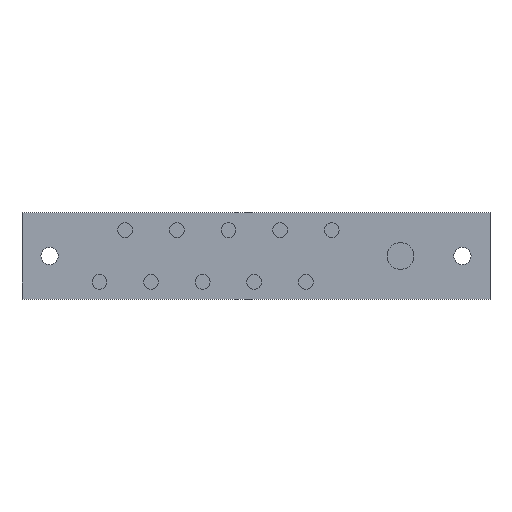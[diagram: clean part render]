
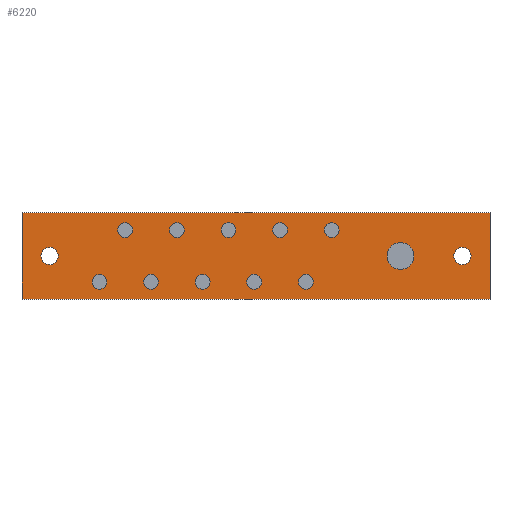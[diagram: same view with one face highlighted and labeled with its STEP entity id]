
A CAD part, top view. The second image highlights one B-rep face of the part: STEP entity #6220.
In plain terms, the highlighted planar face has unit normal (0, 0, 1).
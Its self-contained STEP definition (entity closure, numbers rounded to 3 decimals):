
#3290=CARTESIAN_POINT('',(249.512,66.46,3.));
#3300=VERTEX_POINT('',#3290);
#3330=CARTESIAN_POINT('',(113.512,66.46,3.));
#3340=DIRECTION('',(1.,0.,0.));
#3350=VECTOR('',#3340,1.);
#3360=LINE('',#3330,#3350);
#3370=CARTESIAN_POINT('',(113.512,66.46,3.));
#3380=VERTEX_POINT('',#3370);
#3390=EDGE_CURVE('',#3380,#3300,#3360,.T.);
#3600=CARTESIAN_POINT('',(249.512,41.46,3.));
#3610=VERTEX_POINT('',#3600);
#3640=CARTESIAN_POINT('',(249.512,66.46,3.));
#3650=DIRECTION('',(0.,-1.,0.));
#3660=VECTOR('',#3650,1.);
#3670=LINE('',#3640,#3660);
#3680=EDGE_CURVE('',#3300,#3610,#3670,.T.);
#3840=CARTESIAN_POINT('',(113.512,41.46,3.));
#3850=VERTEX_POINT('',#3840);
#3880=CARTESIAN_POINT('',(249.512,41.46,3.));
#3890=DIRECTION('',(-1.,0.,0.));
#3900=VECTOR('',#3890,1.);
#3910=LINE('',#3880,#3900);
#3920=EDGE_CURVE('',#3610,#3850,#3910,.T.);
#4050=CARTESIAN_POINT('',(113.512,41.46,3.));
#4060=DIRECTION('',(0.,1.,0.));
#4070=VECTOR('',#4060,1.);
#4080=LINE('',#4050,#4070);
#4090=EDGE_CURVE('',#3850,#3380,#4080,.T.);
#4160=CARTESIAN_POINT('',(0.,0.,3.));
#4170=DIRECTION('',(0.,0.,1.));
#4180=DIRECTION('',(1.,0.,0.));
#4190=AXIS2_PLACEMENT_3D('',#4160,#4170,#4180);
#4200=PLANE('',#4190);
#4210=ORIENTED_EDGE('',*,*,#3390,.F.);
#4220=ORIENTED_EDGE('',*,*,#3680,.F.);
#4230=ORIENTED_EDGE('',*,*,#3920,.F.);
#4240=ORIENTED_EDGE('',*,*,#4090,.F.);
#4250=EDGE_LOOP('',(#4240,#4230,#4220,#4210));
#4260=FACE_OUTER_BOUND('',#4250,.T.);
#4270=CARTESIAN_POINT('',(166.012,46.46,3.));
#4280=DIRECTION('',(0.,0.,-1.));
#4290=DIRECTION('',(-1.,0.,0.));
#4300=AXIS2_PLACEMENT_3D('',#4270,#4280,#4290);
#4310=CIRCLE('',#4300,2.);
#4320=CARTESIAN_POINT('',(168.012,46.46,3.));
#4330=VERTEX_POINT('',#4320);
#4340=CARTESIAN_POINT('',(164.012,46.46,3.));
#4350=VERTEX_POINT('',#4340);
#4360=EDGE_CURVE('',#4330,#4350,#4310,.T.);
#4370=ORIENTED_EDGE('',*,*,#4360,.T.);
#4380=EDGE_CURVE('',#4350,#4330,#4310,.T.);
#4390=ORIENTED_EDGE('',*,*,#4380,.T.);
#4400=EDGE_LOOP('',(#4390,#4370));
#4410=FACE_BOUND('',#4400,.T.);
#4420=CARTESIAN_POINT('',(173.512,61.46,3.));
#4430=DIRECTION('',(0.,0.,-1.));
#4440=DIRECTION('',(-1.,0.,0.));
#4450=AXIS2_PLACEMENT_3D('',#4420,#4430,#4440);
#4460=CIRCLE('',#4450,2.);
#4470=CARTESIAN_POINT('',(175.512,61.46,3.));
#4480=VERTEX_POINT('',#4470);
#4490=CARTESIAN_POINT('',(171.512,61.46,3.));
#4500=VERTEX_POINT('',#4490);
#4510=EDGE_CURVE('',#4480,#4500,#4460,.T.);
#4520=ORIENTED_EDGE('',*,*,#4510,.T.);
#4530=EDGE_CURVE('',#4500,#4480,#4460,.T.);
#4540=ORIENTED_EDGE('',*,*,#4530,.T.);
#4550=EDGE_LOOP('',(#4540,#4520));
#4560=FACE_BOUND('',#4550,.T.);
#4570=CARTESIAN_POINT('',(158.512,61.46,3.));
#4580=DIRECTION('',(0.,0.,-1.));
#4590=DIRECTION('',(1.,0.,0.));
#4600=AXIS2_PLACEMENT_3D('',#4570,#4580,#4590);
#4610=CIRCLE('',#4600,2.);
#4620=CARTESIAN_POINT('',(156.512,61.46,3.));
#4630=VERTEX_POINT('',#4620);
#4640=CARTESIAN_POINT('',(160.512,61.46,3.));
#4650=VERTEX_POINT('',#4640);
#4660=EDGE_CURVE('',#4630,#4650,#4610,.T.);
#4670=ORIENTED_EDGE('',*,*,#4660,.T.);
#4680=EDGE_CURVE('',#4650,#4630,#4610,.T.);
#4690=ORIENTED_EDGE('',*,*,#4680,.T.);
#4700=EDGE_LOOP('',(#4690,#4670));
#4710=FACE_BOUND('',#4700,.T.);
#4720=CARTESIAN_POINT('',(181.012,46.46,3.));
#4730=DIRECTION('',(0.,0.,-1.));
#4740=DIRECTION('',(-1.,0.,0.));
#4750=AXIS2_PLACEMENT_3D('',#4720,#4730,#4740);
#4760=CIRCLE('',#4750,2.);
#4770=CARTESIAN_POINT('',(179.012,46.46,3.));
#4780=VERTEX_POINT('',#4770);
#4790=CARTESIAN_POINT('',(183.012,46.46,3.));
#4800=VERTEX_POINT('',#4790);
#4810=EDGE_CURVE('',#4780,#4800,#4760,.T.);
#4820=ORIENTED_EDGE('',*,*,#4810,.T.);
#4830=EDGE_CURVE('',#4800,#4780,#4760,.T.);
#4840=ORIENTED_EDGE('',*,*,#4830,.T.);
#4850=EDGE_LOOP('',(#4840,#4820));
#4860=FACE_BOUND('',#4850,.T.);
#4870=CARTESIAN_POINT('',(241.512,53.96,3.));
#4880=DIRECTION('',(0.,0.,-1.));
#4890=DIRECTION('',(-1.,0.,0.));
#4900=AXIS2_PLACEMENT_3D('',#4870,#4880,#4890);
#4910=CIRCLE('',#4900,2.5);
#4920=CARTESIAN_POINT('',(244.012,53.96,3.));
#4930=VERTEX_POINT('',#4920);
#4940=CARTESIAN_POINT('',(239.012,53.96,3.));
#4950=VERTEX_POINT('',#4940);
#4960=EDGE_CURVE('',#4930,#4950,#4910,.T.);
#4970=ORIENTED_EDGE('',*,*,#4960,.T.);
#4980=EDGE_CURVE('',#4950,#4930,#4910,.T.);
#4990=ORIENTED_EDGE('',*,*,#4980,.T.);
#5000=EDGE_LOOP('',(#4990,#4970));
#5010=FACE_BOUND('',#5000,.T.);
#5020=CARTESIAN_POINT('',(136.012,46.46,3.));
#5030=DIRECTION('',(0.,0.,-1.));
#5040=DIRECTION('',(-1.,0.,0.));
#5050=AXIS2_PLACEMENT_3D('',#5020,#5030,#5040);
#5060=CIRCLE('',#5050,2.);
#5070=CARTESIAN_POINT('',(138.012,46.46,3.));
#5080=VERTEX_POINT('',#5070);
#5090=CARTESIAN_POINT('',(134.012,46.46,3.));
#5100=VERTEX_POINT('',#5090);
#5110=EDGE_CURVE('',#5080,#5100,#5060,.T.);
#5120=ORIENTED_EDGE('',*,*,#5110,.T.);
#5130=EDGE_CURVE('',#5100,#5080,#5060,.T.);
#5140=ORIENTED_EDGE('',*,*,#5130,.T.);
#5150=EDGE_LOOP('',(#5140,#5120));
#5160=FACE_BOUND('',#5150,.T.);
#5170=CARTESIAN_POINT('',(121.512,53.96,3.));
#5180=DIRECTION('',(0.,0.,-1.));
#5190=DIRECTION('',(1.,0.,0.));
#5200=AXIS2_PLACEMENT_3D('',#5170,#5180,#5190);
#5210=CIRCLE('',#5200,2.5);
#5220=CARTESIAN_POINT('',(124.012,53.96,3.));
#5230=VERTEX_POINT('',#5220);
#5240=CARTESIAN_POINT('',(119.012,53.96,3.));
#5250=VERTEX_POINT('',#5240);
#5260=EDGE_CURVE('',#5230,#5250,#5210,.T.);
#5270=ORIENTED_EDGE('',*,*,#5260,.T.);
#5280=EDGE_CURVE('',#5250,#5230,#5210,.T.);
#5290=ORIENTED_EDGE('',*,*,#5280,.T.);
#5300=EDGE_LOOP('',(#5290,#5270));
#5310=FACE_BOUND('',#5300,.T.);
#5320=CARTESIAN_POINT('',(223.512,53.96,3.));
#5330=DIRECTION('',(0.,0.,-1.));
#5340=DIRECTION('',(-1.,0.,0.));
#5350=AXIS2_PLACEMENT_3D('',#5320,#5330,#5340);
#5360=CIRCLE('',#5350,3.5);
#5370=CARTESIAN_POINT('',(227.012,53.96,3.));
#5380=VERTEX_POINT('',#5370);
#5390=CARTESIAN_POINT('',(220.012,53.96,3.));
#5400=VERTEX_POINT('',#5390);
#5410=EDGE_CURVE('',#5380,#5400,#5360,.T.);
#5420=ORIENTED_EDGE('',*,*,#5410,.T.);
#5430=EDGE_CURVE('',#5400,#5380,#5360,.T.);
#5440=ORIENTED_EDGE('',*,*,#5430,.T.);
#5450=EDGE_LOOP('',(#5440,#5420));
#5460=FACE_BOUND('',#5450,.T.);
#5470=CARTESIAN_POINT('',(143.512,61.46,3.));
#5480=DIRECTION('',(0.,0.,-1.));
#5490=DIRECTION('',(1.,0.,0.));
#5500=AXIS2_PLACEMENT_3D('',#5470,#5480,#5490);
#5510=CIRCLE('',#5500,2.);
#5520=CARTESIAN_POINT('',(145.512,61.46,3.));
#5530=VERTEX_POINT('',#5520);
#5540=CARTESIAN_POINT('',(141.512,61.46,3.));
#5550=VERTEX_POINT('',#5540);
#5560=EDGE_CURVE('',#5530,#5550,#5510,.T.);
#5570=ORIENTED_EDGE('',*,*,#5560,.T.);
#5580=EDGE_CURVE('',#5550,#5530,#5510,.T.);
#5590=ORIENTED_EDGE('',*,*,#5580,.T.);
#5600=EDGE_LOOP('',(#5590,#5570));
#5610=FACE_BOUND('',#5600,.T.);
#5620=CARTESIAN_POINT('',(188.512,61.46,3.));
#5630=DIRECTION('',(0.,0.,-1.));
#5640=DIRECTION('',(-1.,0.,0.));
#5650=AXIS2_PLACEMENT_3D('',#5620,#5630,#5640);
#5660=CIRCLE('',#5650,2.);
#5670=CARTESIAN_POINT('',(190.512,61.46,3.));
#5680=VERTEX_POINT('',#5670);
#5690=CARTESIAN_POINT('',(186.512,61.46,3.));
#5700=VERTEX_POINT('',#5690);
#5710=EDGE_CURVE('',#5680,#5700,#5660,.T.);
#5720=ORIENTED_EDGE('',*,*,#5710,.T.);
#5730=EDGE_CURVE('',#5700,#5680,#5660,.T.);
#5740=ORIENTED_EDGE('',*,*,#5730,.T.);
#5750=EDGE_LOOP('',(#5740,#5720));
#5760=FACE_BOUND('',#5750,.T.);
#5770=CARTESIAN_POINT('',(203.512,61.46,3.));
#5780=DIRECTION('',(0.,0.,-1.));
#5790=DIRECTION('',(-1.,0.,0.));
#5800=AXIS2_PLACEMENT_3D('',#5770,#5780,#5790);
#5810=CIRCLE('',#5800,2.);
#5820=CARTESIAN_POINT('',(201.512,61.46,3.));
#5830=VERTEX_POINT('',#5820);
#5840=CARTESIAN_POINT('',(205.512,61.46,3.));
#5850=VERTEX_POINT('',#5840);
#5860=EDGE_CURVE('',#5830,#5850,#5810,.T.);
#5870=ORIENTED_EDGE('',*,*,#5860,.T.);
#5880=EDGE_CURVE('',#5850,#5830,#5810,.T.);
#5890=ORIENTED_EDGE('',*,*,#5880,.T.);
#5900=EDGE_LOOP('',(#5890,#5870));
#5910=FACE_BOUND('',#5900,.T.);
#5920=CARTESIAN_POINT('',(151.012,46.46,3.));
#5930=DIRECTION('',(0.,0.,-1.));
#5940=DIRECTION('',(1.,0.,0.));
#5950=AXIS2_PLACEMENT_3D('',#5920,#5930,#5940);
#5960=CIRCLE('',#5950,2.);
#5970=CARTESIAN_POINT('',(149.012,46.46,3.));
#5980=VERTEX_POINT('',#5970);
#5990=CARTESIAN_POINT('',(153.012,46.46,3.));
#6000=VERTEX_POINT('',#5990);
#6010=EDGE_CURVE('',#5980,#6000,#5960,.T.);
#6020=ORIENTED_EDGE('',*,*,#6010,.T.);
#6030=EDGE_CURVE('',#6000,#5980,#5960,.T.);
#6040=ORIENTED_EDGE('',*,*,#6030,.T.);
#6050=EDGE_LOOP('',(#6040,#6020));
#6060=FACE_BOUND('',#6050,.T.);
#6070=CARTESIAN_POINT('',(196.012,46.46,3.));
#6080=DIRECTION('',(0.,0.,-1.));
#6090=DIRECTION('',(1.,0.,0.));
#6100=AXIS2_PLACEMENT_3D('',#6070,#6080,#6090);
#6110=CIRCLE('',#6100,2.);
#6120=CARTESIAN_POINT('',(198.012,46.46,3.));
#6130=VERTEX_POINT('',#6120);
#6140=CARTESIAN_POINT('',(194.012,46.46,3.));
#6150=VERTEX_POINT('',#6140);
#6160=EDGE_CURVE('',#6130,#6150,#6110,.T.);
#6170=ORIENTED_EDGE('',*,*,#6160,.T.);
#6180=EDGE_CURVE('',#6150,#6130,#6110,.T.);
#6190=ORIENTED_EDGE('',*,*,#6180,.T.);
#6200=EDGE_LOOP('',(#6190,#6170));
#6210=FACE_BOUND('',#6200,.T.);
#6220=ADVANCED_FACE('',(#4260,#4410,#4560,#4710,#4860,#5010,#5160,#5310,
#5460,#5610,#5760,#5910,#6060,#6210),#4200,.T.);
